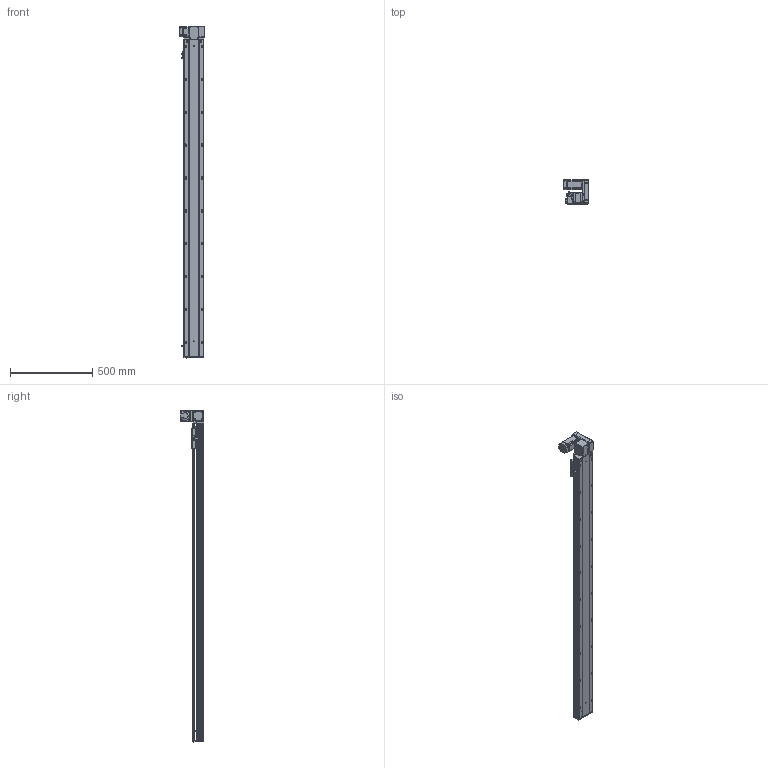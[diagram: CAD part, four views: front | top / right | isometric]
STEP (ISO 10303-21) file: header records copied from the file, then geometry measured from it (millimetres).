
FILE_DESCRIPTION (( 'STEP AP203' ), '1' );
FILE_NAME ('RY120-T-300-UR.SLDASM_1700.step', '2021-03-01T05:57:50', ( '盈信电脑' ), ( '东莞市道滘镇水果街19号' ), 'SwSTEP 2.0', 'SolidWorks 2012', '' );
FILE_SCHEMA (( 'CONFIG_CONTROL_DESIGN' ));
Products named in the file (17): RY120-T主同步轮轴承压盖; RY120-T-300-UR.SLDASM_1700; RY120-T萇儂欶; 15; RY120-T蹟翐M4; RY120-T翋肮祭謫裔啣; RY120-T萇儂假蚾啣; RY120-T翋肮祭盓傅釱; RY120-T肮祭湍揤踡輸2; 滅袉蝶18-10; RY120綴裔啣; RY120外置感应片(140共用）; RY120-T肮祭湍揤踡輸1; 覜茼ん672; RY120-T-300-UR倰第奻裔啣_1700; RY120-T-300-UR倰第菁釱_1700; RY120肮祭湍臏賑輸
Assembly tree (22 placements, depth 2):
  RY120-T-300-UR.SLDASM_1700
    RY120-T-300-UR倰第菁釱_1700
    RY120-T-300-UR倰第奻裔啣_1700
    RY120肮祭湍臏賑輸
    RY120綴裔啣
    覜茼ん672  x3
    RY120外置感应片(140共用）
    RY120-T肮祭湍揤踡輸1
    RY120-T肮祭湍揤踡輸2
    RY120-T翋肮祭盓傅釱
    RY120-T萇儂假蚾啣
    滅袉蝶18-10  x2
    RY120-T翋肮祭謫裔啣
    15
    RY120-T蹟翐M4  x4
    RY120-T萇儂欶
    RY120-T主同步轮轴承压盖
Bounding box: 155.5 x 146 x 2021 mm (x, y, z)
Volume: 5149400.3 mm3; surface area: 1958056.6 mm2
Topology: 23 solids, 23 shells, 3034 faces, 8296 edges, 5294 vertices
Faces by surface type: plane 1442, cylinder 1200, cone 303, bspline 89
Entity records: 97367 total; most frequent: CARTESIAN_POINT 25304, ORIENTED_EDGE 14920, DIRECTION 14078, EDGE_CURVE 7460, VERTEX_POINT 4881, AXIS2_PLACEMENT_3D 4767, VECTOR 4544, LINE 4544
